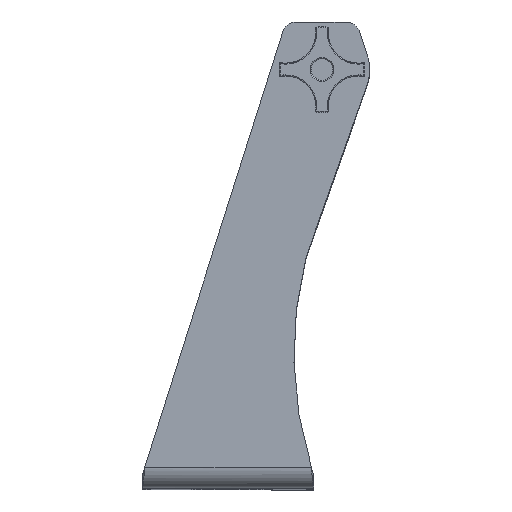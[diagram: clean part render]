
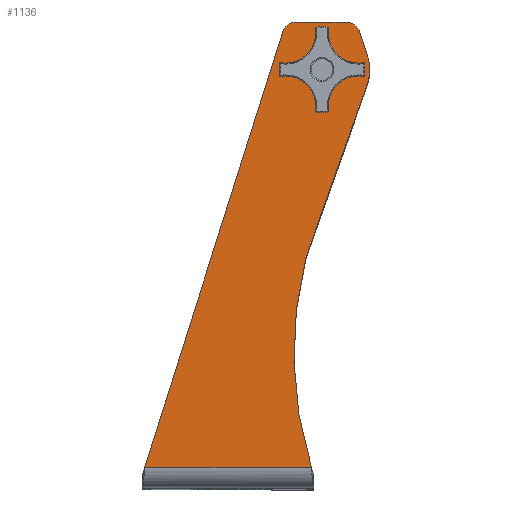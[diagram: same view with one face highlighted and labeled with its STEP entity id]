
A CAD part, top view. The second image highlights one B-rep face of the part: STEP entity #1136.
In plain terms, the highlighted planar face has unit normal (0, 0, 1) as drawn and (1, 0, 0) by its records, which use the part's own axes.
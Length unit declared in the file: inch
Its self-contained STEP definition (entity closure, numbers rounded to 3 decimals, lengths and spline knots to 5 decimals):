
#71 = DIRECTION ( 'NONE',  ( 1., 0., 0. ) ) ;
#117 = CARTESIAN_POINT ( 'NONE',  ( 11.0625, 3.56814, -11.72649 ) ) ;
#141 = LINE ( 'NONE', #1034, #6405 ) ;
#252 = DIRECTION ( 'NONE',  ( 1., 0., 0. ) ) ;
#364 = CARTESIAN_POINT ( 'NONE',  ( 11.0625, 11.96547, -1.43079 ) ) ;
#428 = EDGE_CURVE ( 'NONE', #3032, #8465, #2054, .T. ) ;
#604 = DIRECTION ( 'NONE',  ( 1., 0., 0. ) ) ;
#849 = DIRECTION ( 'NONE',  ( -1., 0., 0. ) ) ;
#914 = CIRCLE ( 'NONE', #7147, 1.25 ) ;
#915 = DIRECTION ( 'NONE',  ( 0., 1., 0. ) ) ;
#968 = CARTESIAN_POINT ( 'NONE',  ( 11.0625, 11., -2.46533 ) ) ;
#992 = VERTEX_POINT ( 'NONE', #7405 ) ;
#1008 = DIRECTION ( 'NONE',  ( 0., 1., 0. ) ) ;
#1034 = CARTESIAN_POINT ( 'NONE',  ( 11.0625, 12.25, -11.72649 ) ) ;
#1061 = CIRCLE ( 'NONE', #10728, 0.1955 ) ;
#1097 = EDGE_CURVE ( 'NONE', #2807, #6703, #10114, .T. ) ;
#1136 = ADVANCED_FACE ( 'NONE', ( #10461, #9715 ), #7851, .T. ) ;
#1146 = DIRECTION ( 'NONE',  ( 1., 0., 0. ) ) ;
#1278 = DIRECTION ( 'NONE',  ( 0., 0.943, -0.334 ) ) ;
#1375 = CARTESIAN_POINT ( 'NONE',  ( 11.0625, 1.9399, -6.73572 ) ) ;
#1553 = EDGE_CURVE ( 'NONE', #6703, #6019, #5590, .T. ) ;
#1699 = AXIS2_PLACEMENT_3D ( 'NONE', #8699, #252, #7117 ) ;
#1919 = CARTESIAN_POINT ( 'NONE',  ( 11.0625, 12.25, -3.10022 ) ) ;
#2054 = LINE ( 'NONE', #2279, #7232 ) ;
#2120 = VECTOR ( 'NONE', #4907, 39.37008 ) ;
#2184 = AXIS2_PLACEMENT_3D ( 'NONE', #4843, #604, #10115 ) ;
#2197 = ORIENTED_EDGE ( 'NONE', *, *, #7283, .F. ) ;
#2231 = AXIS2_PLACEMENT_3D ( 'NONE', #6285, #1146, #4551 ) ;
#2279 = CARTESIAN_POINT ( 'NONE',  ( 11.0625, 6.89417, -2.33574 ) ) ;
#2287 = CIRCLE ( 'NONE', #3907, 10. ) ;
#2612 = ORIENTED_EDGE ( 'NONE', *, *, #6525, .T. ) ;
#2679 = CARTESIAN_POINT ( 'NONE',  ( 11.0625, 0.563, 2.1903 ) ) ;
#2786 = DIRECTION ( 'NONE',  ( 0., 1., 0. ) ) ;
#2807 = VERTEX_POINT ( 'NONE', #4111 ) ;
#2834 = ORIENTED_EDGE ( 'NONE', *, *, #1553, .T. ) ;
#2886 = CARTESIAN_POINT ( 'NONE',  ( 11.0625, 11.98365, -3.45894 ) ) ;
#3032 = VERTEX_POINT ( 'NONE', #10714 ) ;
#3357 = ORIENTED_EDGE ( 'NONE', *, *, #428, .T. ) ;
#3901 = EDGE_LOOP ( 'NONE', ( #2834, #6843, #7744, #3357, #7902, #11025, #2612, #6353, #10399 ) ) ;
#3907 = AXIS2_PLACEMENT_3D ( 'NONE', #117, #849, #1008 ) ;
#3929 = CARTESIAN_POINT ( 'NONE',  ( 11.0625, 0.563, -11.72649 ) ) ;
#4111 = CARTESIAN_POINT ( 'NONE',  ( 11.0625, 12.25, -1.79451 ) ) ;
#4471 = CARTESIAN_POINT ( 'NONE',  ( 11.0625, 11., -2.46533 ) ) ;
#4551 = DIRECTION ( 'NONE',  ( 0., 1., 0. ) ) ;
#4707 = CARTESIAN_POINT ( 'NONE',  ( 11.0625, 7.30751, 0.04844 ) ) ;
#4843 = CARTESIAN_POINT ( 'NONE',  ( 11.0625, 11.87526, -3.10022 ) ) ;
#4907 = DIRECTION ( 'NONE',  ( 0., 0.951, 0.31 ) ) ;
#5173 = AXIS2_PLACEMENT_3D ( 'NONE', #5509, #7130, #8021 ) ;
#5216 = VERTEX_POINT ( 'NONE', #5435 ) ;
#5231 = VERTEX_POINT ( 'NONE', #6075 ) ;
#5334 = CIRCLE ( 'NONE', #5173, 0.1955 ) ;
#5399 = VERTEX_POINT ( 'NONE', #10666 ) ;
#5432 = EDGE_CURVE ( 'NONE', #6019, #5399, #10880, .T. ) ;
#5435 = CARTESIAN_POINT ( 'NONE',  ( 11.0625, 11.1955, -2.46533 ) ) ;
#5509 = CARTESIAN_POINT ( 'NONE',  ( 11.0625, 11., -2.46533 ) ) ;
#5590 = LINE ( 'NONE', #4707, #6748 ) ;
#6019 = VERTEX_POINT ( 'NONE', #2679 ) ;
#6075 = CARTESIAN_POINT ( 'NONE',  ( 11.0625, 10.8045, -2.46533 ) ) ;
#6285 = CARTESIAN_POINT ( 'NONE',  ( 11.0625, 3.56814, -11.72649 ) ) ;
#6353 = ORIENTED_EDGE ( 'NONE', *, *, #7576, .T. ) ;
#6405 = VECTOR ( 'NONE', #9657, 39.37008 ) ;
#6525 = EDGE_CURVE ( 'NONE', #7218, #7514, #7005, .T. ) ;
#6703 = VERTEX_POINT ( 'NONE', #364 ) ;
#6748 = VECTOR ( 'NONE', #8110, 39.37008 ) ;
#6843 = ORIENTED_EDGE ( 'NONE', *, *, #5432, .T. ) ;
#7005 = CIRCLE ( 'NONE', #2184, 0.37474 ) ;
#7117 = DIRECTION ( 'NONE',  ( 0., 1., 0. ) ) ;
#7130 = DIRECTION ( 'NONE',  ( 1., 0., 0. ) ) ;
#7147 = AXIS2_PLACEMENT_3D ( 'NONE', #4471, #71, #2786 ) ;
#7218 = VERTEX_POINT ( 'NONE', #2886 ) ;
#7232 = VECTOR ( 'NONE', #1278, 39.37008 ) ;
#7283 = EDGE_CURVE ( 'NONE', #5216, #5231, #5334, .T. ) ;
#7405 = CARTESIAN_POINT ( 'NONE',  ( 11.0625, 11.36153, -3.6619 ) ) ;
#7514 = VERTEX_POINT ( 'NONE', #1919 ) ;
#7576 = EDGE_CURVE ( 'NONE', #7514, #2807, #141, .T. ) ;
#7744 = ORIENTED_EDGE ( 'NONE', *, *, #8200, .T. ) ;
#7851 = PLANE ( 'NONE',  #2231 ) ;
#7902 = ORIENTED_EDGE ( 'NONE', *, *, #9428, .T. ) ;
#8021 = DIRECTION ( 'NONE',  ( 0., 1., 0. ) ) ;
#8110 = DIRECTION ( 'NONE',  ( 0., -0.953, 0.303 ) ) ;
#8200 = EDGE_CURVE ( 'NONE', #5399, #3032, #2287, .T. ) ;
#8465 = VERTEX_POINT ( 'NONE', #10484 ) ;
#8569 = DIRECTION ( 'NONE',  ( 1., 0., 0. ) ) ;
#8621 = VECTOR ( 'NONE', #8912, 39.37008 ) ;
#8699 = CARTESIAN_POINT ( 'NONE',  ( 11.0625, 11.87526, -1.79451 ) ) ;
#8912 = DIRECTION ( 'NONE',  ( 0., 0., -1. ) ) ;
#9428 = EDGE_CURVE ( 'NONE', #8465, #992, #914, .T. ) ;
#9657 = DIRECTION ( 'NONE',  ( 0., 0., 1. ) ) ;
#9715 = FACE_OUTER_BOUND ( 'NONE', #3901, .T. ) ;
#9871 = EDGE_LOOP ( 'NONE', ( #2197, #10669 ) ) ;
#9952 = LINE ( 'NONE', #1375, #2120 ) ;
#9956 = EDGE_CURVE ( 'NONE', #992, #7218, #9952, .T. ) ;
#10114 = CIRCLE ( 'NONE', #1699, 0.37474 ) ;
#10115 = DIRECTION ( 'NONE',  ( 0., 1., 0. ) ) ;
#10388 = EDGE_CURVE ( 'NONE', #5231, #5216, #1061, .T. ) ;
#10399 = ORIENTED_EDGE ( 'NONE', *, *, #1097, .T. ) ;
#10461 = FACE_BOUND ( 'NONE', #9871, .T. ) ;
#10484 = CARTESIAN_POINT ( 'NONE',  ( 11.0625, 10.63847, -3.6619 ) ) ;
#10666 = CARTESIAN_POINT ( 'NONE',  ( 11.0625, 0.563, -2.18872 ) ) ;
#10669 = ORIENTED_EDGE ( 'NONE', *, *, #10388, .F. ) ;
#10714 = CARTESIAN_POINT ( 'NONE',  ( 11.0625, 6.07712, -2.04636 ) ) ;
#10728 = AXIS2_PLACEMENT_3D ( 'NONE', #968, #8569, #915 ) ;
#10880 = LINE ( 'NONE', #3929, #8621 ) ;
#11025 = ORIENTED_EDGE ( 'NONE', *, *, #9956, .T. ) ;
